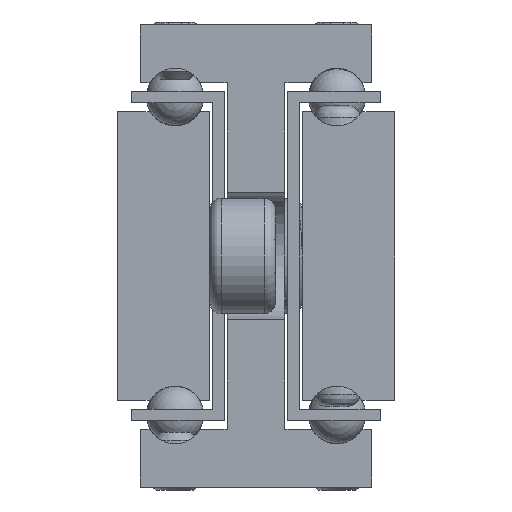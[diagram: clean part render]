
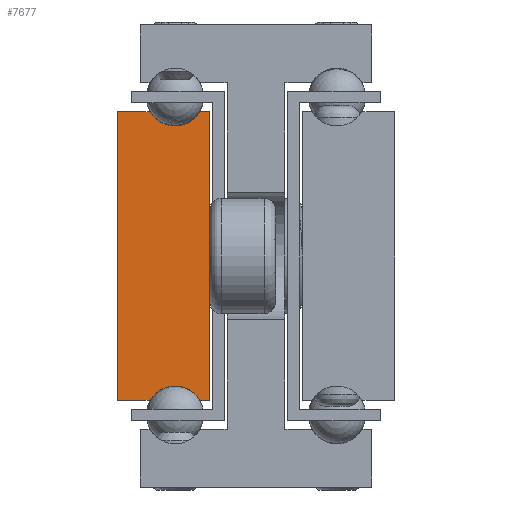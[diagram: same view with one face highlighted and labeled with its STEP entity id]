
A CAD part, front view. The second image highlights one B-rep face of the part: STEP entity #7677.
In plain terms, the highlighted planar face has unit normal (0, -1, 0).
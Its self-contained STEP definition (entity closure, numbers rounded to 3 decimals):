
#502=LINE('',#10724,#1192);
#505=LINE('',#10730,#1195);
#509=LINE('',#10742,#1199);
#512=LINE('',#10748,#1202);
#515=LINE('',#10754,#1205);
#519=LINE('',#10764,#1209);
#1192=VECTOR('',#8834,1.);
#1195=VECTOR('',#8839,1.);
#1199=VECTOR('',#8851,1.);
#1202=VECTOR('',#8856,1.);
#1205=VECTOR('',#8861,1.);
#1209=VECTOR('',#8873,1.);
#1887=PLANE('',#8229);
#2343=FACE_OUTER_BOUND('',#2829,.T.);
#2829=EDGE_LOOP('',(#5528,#5529,#5530,#5531,#5532,#5533,#5534,#5535));
#3445=CIRCLE('',#8220,2.5);
#3447=CIRCLE('',#8226,2.5);
#3628=VERTEX_POINT('',#10721);
#3629=VERTEX_POINT('',#10723);
#3631=VERTEX_POINT('',#10729);
#3633=VERTEX_POINT('',#10735);
#3635=VERTEX_POINT('',#10741);
#3637=VERTEX_POINT('',#10747);
#3639=VERTEX_POINT('',#10753);
#3641=VERTEX_POINT('',#10759);
#4418=EDGE_CURVE('',#3629,#3628,#502,.T.);
#4421=EDGE_CURVE('',#3631,#3629,#505,.T.);
#4424=EDGE_CURVE('',#3633,#3631,#3445,.T.);
#4427=EDGE_CURVE('',#3635,#3633,#509,.T.);
#4430=EDGE_CURVE('',#3637,#3635,#512,.T.);
#4433=EDGE_CURVE('',#3639,#3637,#515,.T.);
#4436=EDGE_CURVE('',#3641,#3639,#3447,.T.);
#4439=EDGE_CURVE('',#3628,#3641,#519,.T.);
#5528=ORIENTED_EDGE('',*,*,#4439,.T.);
#5529=ORIENTED_EDGE('',*,*,#4436,.T.);
#5530=ORIENTED_EDGE('',*,*,#4433,.T.);
#5531=ORIENTED_EDGE('',*,*,#4430,.T.);
#5532=ORIENTED_EDGE('',*,*,#4427,.T.);
#5533=ORIENTED_EDGE('',*,*,#4424,.T.);
#5534=ORIENTED_EDGE('',*,*,#4421,.T.);
#5535=ORIENTED_EDGE('',*,*,#4418,.T.);
#7677=ADVANCED_FACE('',(#2343),#1887,.T.);
#8220=AXIS2_PLACEMENT_3D('',#10736,#8845,#8846);
#8226=AXIS2_PLACEMENT_3D('',#10760,#8867,#8868);
#8229=AXIS2_PLACEMENT_3D('',#10766,#8876,#8877);
#8834=DIRECTION('',(0.,0.,-1.));
#8839=DIRECTION('',(-1.,0.,0.));
#8845=DIRECTION('center_axis',(0.,1.,0.));
#8846=DIRECTION('ref_axis',(-0.866,0.,-0.5));
#8851=DIRECTION('',(-1.,0.,0.));
#8856=DIRECTION('',(0.,0.,1.));
#8861=DIRECTION('',(1.,0.,0.));
#8867=DIRECTION('center_axis',(0.,1.,0.));
#8868=DIRECTION('ref_axis',(0.866,0.,0.5));
#8873=DIRECTION('',(1.,0.,0.));
#8876=DIRECTION('center_axis',(0.,-1.,0.));
#8877=DIRECTION('ref_axis',(1.,0.,0.));
#10721=CARTESIAN_POINT('',(1293.514,1343.378,212.5));
#10723=CARTESIAN_POINT('',(1293.514,1343.378,237.5));
#10724=CARTESIAN_POINT('',(1293.514,1343.378,212.5));
#10729=CARTESIAN_POINT('',(1296.349,1343.378,237.5));
#10730=CARTESIAN_POINT('',(1293.514,1343.378,237.5));
#10735=CARTESIAN_POINT('',(1300.68,1343.378,237.5));
#10736=CARTESIAN_POINT('Origin',(1298.514,1343.378,238.75));
#10741=CARTESIAN_POINT('',(1301.514,1343.378,237.5));
#10742=CARTESIAN_POINT('',(1300.68,1343.378,237.5));
#10747=CARTESIAN_POINT('',(1301.514,1343.378,212.5));
#10748=CARTESIAN_POINT('',(1301.514,1343.378,237.5));
#10753=CARTESIAN_POINT('',(1300.68,1343.378,212.5));
#10754=CARTESIAN_POINT('',(1301.514,1343.378,212.5));
#10759=CARTESIAN_POINT('',(1296.349,1343.378,212.5));
#10760=CARTESIAN_POINT('Origin',(1298.514,1343.378,211.25));
#10764=CARTESIAN_POINT('',(1296.349,1343.378,212.5));
#10766=CARTESIAN_POINT('Origin',(1297.502,1343.378,225.));
